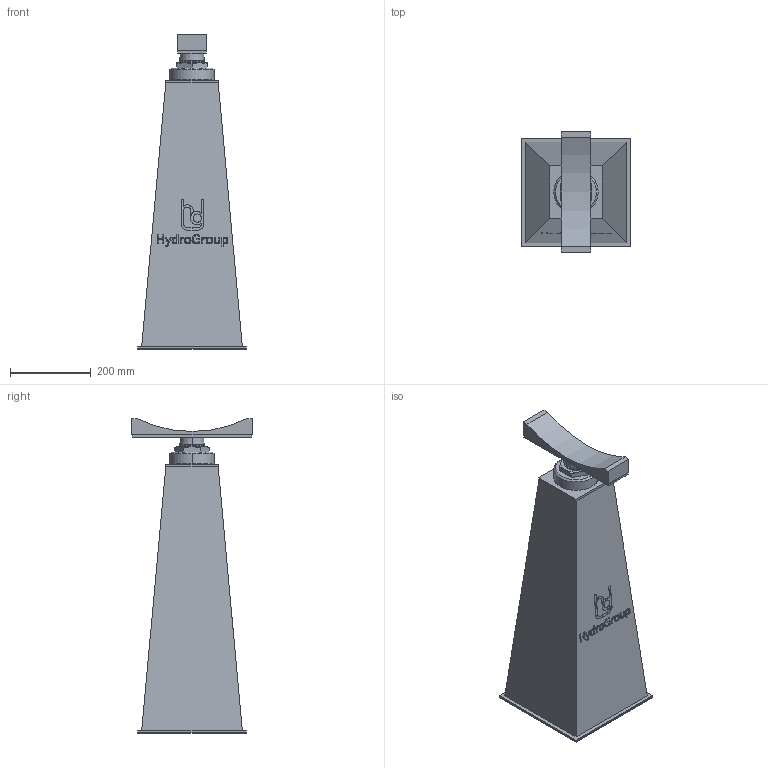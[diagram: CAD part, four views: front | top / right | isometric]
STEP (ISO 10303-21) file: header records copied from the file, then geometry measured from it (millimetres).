
FILE_DESCRIPTION(('STEP AP214'),'1');
FILE_NAME('RSRFE-I_DN600.stp','2018-06-27T13:23:55',(' '),(' '),'Spatial InterOp 3D',' ',' ');
FILE_SCHEMA(('automotive_design'));
Length unit declared in the file: millimetre
Products named in the file (6): 1; 2; 3; 4; 5; 6
Bounding box: 270 x 299 x 782 mm (x, y, z)
Volume: 26691453.4 mm3; surface area: 956583.9 mm2
Topology: 6 solids, 6 shells, 221 faces, 548 edges, 359 vertices
Faces by surface type: plane 145, cylinder 30, extrusion 24, cone 18, torus 4
Entity records: 8932 total; most frequent: CARTESIAN_POINT 1808, ORIENTED_EDGE 1096, DIRECTION 1007, EDGE_CURVE 548, VECTOR 423, LINE 399, VERTEX_POINT 359, AXIS2_PLACEMENT_3D 292
